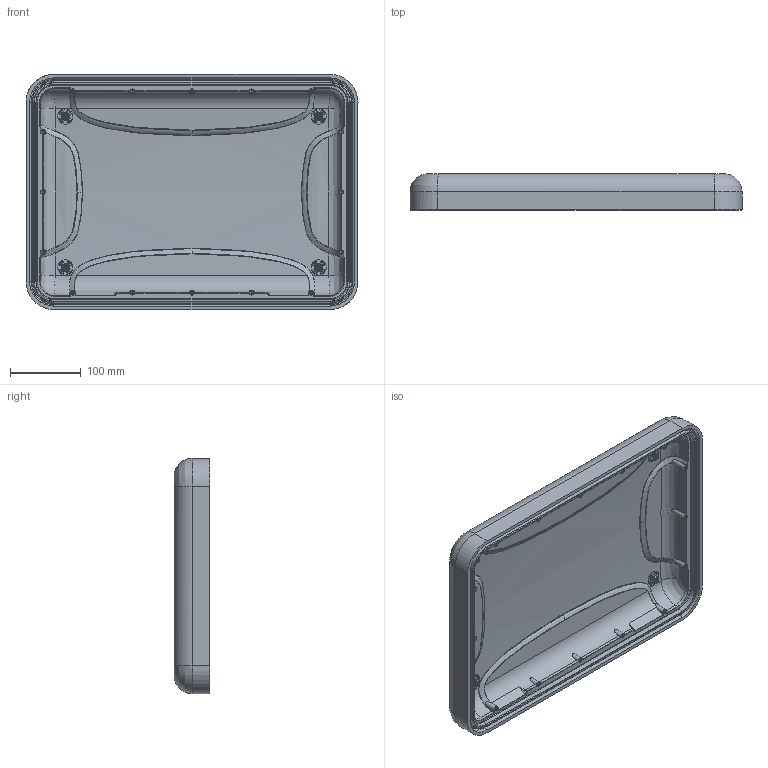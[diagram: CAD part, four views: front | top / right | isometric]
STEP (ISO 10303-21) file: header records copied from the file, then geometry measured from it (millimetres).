
FILE_DESCRIPTION (( 'STEP AP203' ), '1' );
FILE_NAME ('923_Top_Inner_Surfaces.STEP', '2016-11-18T20:57:28', ( '' ), ( '' ), 'SwSTEP 2.0', 'SolidWorks 2016', '' );
FILE_SCHEMA (( 'CONFIG_CONTROL_DESIGN' ));
Length unit declared in the file: inch
Products named in the file (1): 923_Top_Inner_Surfaces
Bounding box: 470.33 x 50.8 x 333.17 mm (x, y, z)
Volume: 2562770.4 mm3; surface area: 441945.7 mm2
Topology: 1 solids, 1 shells, 1243 faces, 3053 edges, 1824 vertices
Faces by surface type: bspline 529, plane 293, cylinder 208, torus 145, cone 68
Entity records: 96846 total; most frequent: CARTESIAN_POINT 71946, ORIENTED_EDGE 6014, DIRECTION 4026, EDGE_CURVE 3007, VERTEX_POINT 1824, AXIS2_PLACEMENT_3D 1534, EDGE_LOOP 1301, ADVANCED_FACE 1243
